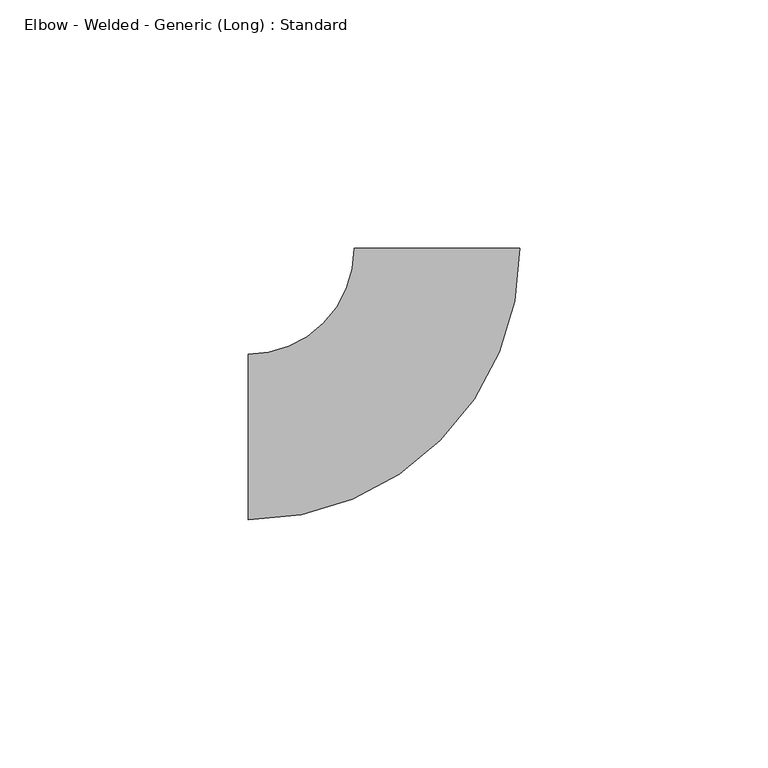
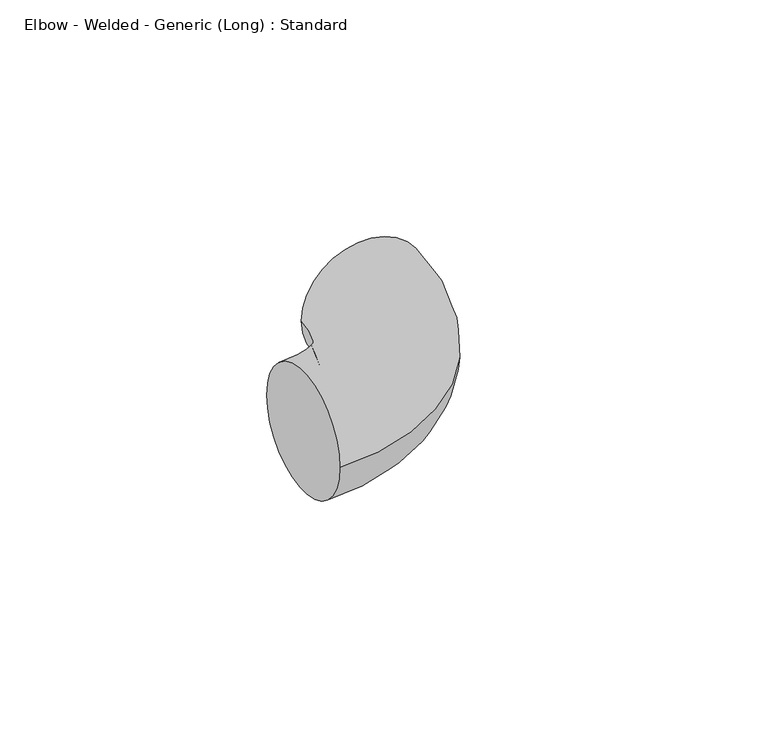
"""IFC4 building model written with IfcOpenShell, lengths in millimetres: pipe fitting geometry, Elbow - Welded - Generic (Long) : Standard."""

import ifcopenshell
import ifcopenshell.guid

model = None  # the IFC model being written
_history = None  # IfcOwnerHistory: only IFC2X3 demands one
_inside = {}  # id of a spatial element -> (the spatial element, [elements in it])
_under = {}  # id of a project, library or spatial element -> (it, [spatial elements below it])
_declared = {}  # id of a project -> (the project, [libraries it declares])
_typed = {}  # id of a type object -> (the type object, [elements of that type])
_made_of = {}  # id of a material, layer set ... -> (it, [elements and type objects made of it])


def new_model(schema):
    """Start an empty IFC model of exactly this schema.

    Asked for "IFC4X3", IfcOpenShell would pick the latest addendum, in which some entities
    have other attributes; the version numbers below select the first issue.
    IFC2X3 requires an IfcOwnerHistory on every rooted entity: one is made here for all.
    """
    global model, _history
    if schema == "IFC4X3":
        model = ifcopenshell.file(schema_version=(4, 3, 0, 0))
    else:
        model = ifcopenshell.file(schema=schema)
    _inside.clear()
    _under.clear()
    _declared.clear()
    _typed.clear()
    _made_of.clear()
    _history = None
    if model.schema == "IFC2X3":
        org = make("IfcOrganization", Name="unknown")
        user = make(
            "IfcPersonAndOrganization",
            ThePerson=make("IfcPerson", FamilyName="unknown"),
            TheOrganization=org,
        )
        app = make(
            "IfcApplication",
            ApplicationDeveloper=org,
            Version="unknown",
            ApplicationFullName="unknown",
            ApplicationIdentifier="unknown",
        )
        _history = make(
            "IfcOwnerHistory",
            OwningUser=user,
            OwningApplication=app,
            ChangeAction="ADDED",
            CreationDate=0,
        )
    return model


def make(cls, **values):
    """One entity of the class cls with the attributes given. An attribute that is None is left unset."""
    return model.create_entity(
        cls, **{name: value for name, value in values.items() if value is not None}
    )


def rooted(cls, **values):
    """An entity with a GlobalId (a new one), such as an element, a storey or a relation."""
    return make(cls, GlobalId=ifcopenshell.guid.new(), OwnerHistory=_history, **values)


def si_unit(unit_type, name, prefix=None):
    """IfcSIUnit, for example si_unit("LENGTHUNIT", "METRE", prefix="MILLI")."""
    return make("IfcSIUnit", UnitType=unit_type, Prefix=prefix, Name=name)


def assignment(units):
    """IfcUnitAssignment: the units of a project."""
    return None if units is None else make("IfcUnitAssignment", Units=units)


def point(xyz):
    """IfcCartesianPoint."""
    return None if xyz is None else make("IfcCartesianPoint", Coordinates=xyz)


def direction(xyz):
    """IfcDirection."""
    return None if xyz is None else make("IfcDirection", DirectionRatios=xyz)


def frame(location, z_axis=None, x_axis=None):
    """IfcAxis2Placement3D, a coordinate frame: its origin and axes. An axis left out is left unset."""
    return make(
        "IfcAxis2Placement3D",
        Location=point(location),
        Axis=direction(z_axis),
        RefDirection=direction(x_axis),
    )


def origin():
    """The frame at (0, 0, 0) with its axes left unset."""
    return frame((0.0, 0.0, 0.0))


def place(relative_to, where):
    """IfcLocalPlacement: puts the frame where relative to a parent placement (None: the world)."""
    return make(
        "IfcLocalPlacement", PlacementRelTo=relative_to, RelativePlacement=where
    )


def context(
    kind, dimensions, precision=None, world=None, true_north=None, identifier=None
):
    """IfcGeometricRepresentationContext, for example the 3D "Model" context."""
    return make(
        "IfcGeometricRepresentationContext",
        ContextIdentifier=identifier,
        ContextType=kind,
        CoordinateSpaceDimension=dimensions,
        Precision=precision,
        WorldCoordinateSystem=world,
        TrueNorth=true_north,
    )


def project(units=None, contexts=None):
    """IfcProject with its units and contexts."""
    return rooted(
        "IfcProject",
        Name="project",
        RepresentationContexts=contexts,
        UnitsInContext=assignment(units),
    )


def spatial(cls, under=None, at=None, **own):
    """A site, building, storey or space (cls), placed at a placement, below another one or the project."""
    s = rooted(cls, ObjectPlacement=at, **own)
    if under is not None:
        _under.setdefault(under.id(), (under, []))[1].append(s)
    return s


def circle_curve(where, radius):
    """IfcCircle in the frame where."""
    return make("IfcCircle", Position=where, Radius=radius)


def ellipse_curve(where, semi_axis1, semi_axis2):
    """IfcEllipse in the frame where."""
    return make(
        "IfcEllipse", Position=where, SemiAxis1=semi_axis1, SemiAxis2=semi_axis2
    )


def trimmed(basis, trim1, trim2, sense, master):
    """IfcTrimmedCurve: the piece of a basis curve between two trims."""
    return make(
        "IfcTrimmedCurve",
        BasisCurve=basis,
        Trim1=trim1,
        Trim2=trim2,
        SenseAgreement=sense,
        MasterRepresentation=master,
    )


def shape(context_of_items, identifier, shape_type, items):
    """IfcShapeRepresentation: the items that make up one representation, for example the "Body"."""
    return make(
        "IfcShapeRepresentation",
        ContextOfItems=context_of_items,
        RepresentationIdentifier=identifier,
        RepresentationType=shape_type,
        Items=items,
    )


def source(mapping_origin, context_of_items, identifier, shape_type, items):
    """IfcRepresentationMap: a shape defined once, which mapped items show again and again."""
    return make(
        "IfcRepresentationMap",
        MappingOrigin=mapping_origin,
        MappedRepresentation=shape(context_of_items, identifier, shape_type, items),
    )


def transform(
    local_origin,
    x_axis=None,
    y_axis=None,
    z_axis=None,
    scale=None,
    scale2=None,
    scale3=None,
    uniform=True,
):
    """IfcCartesianTransformationOperator3D, or its non-uniform kind. x_axis, y_axis, z_axis: its Axis1, 2, 3."""
    if uniform:
        return make(
            "IfcCartesianTransformationOperator3D",
            Axis1=direction(x_axis),
            Axis2=direction(y_axis),
            LocalOrigin=point(local_origin),
            Scale=scale,
            Axis3=direction(z_axis),
        )
    return make(
        "IfcCartesianTransformationOperator3DnonUniform",
        Axis1=direction(x_axis),
        Axis2=direction(y_axis),
        LocalOrigin=point(local_origin),
        Scale=scale,
        Axis3=direction(z_axis),
        Scale2=scale2,
        Scale3=scale3,
    )


def mapped(mapping_source, mapping_target):
    """IfcMappedItem: shows the shape of a source again, moved by a transform."""
    return make(
        "IfcMappedItem", MappingSource=mapping_source, MappingTarget=mapping_target
    )


def made_of(thing, what):
    """Note that an element or type object is made of a material, layer set ...; save() writes the relation."""
    if what is not None:
        _made_of.setdefault(what.id(), (what, []))[1].append(thing)
    return thing


def element(
    cls,
    number,
    at=None,
    inside=None,
    cuts=None,
    type_object=None,
    material=None,
    context=None,
    identifier="Body",
    shape_type=None,
    held_by="IfcProductDefinitionShape",
    body=None,
    shapes=None,
    **own,
):
    """One element of the class cls, such as IfcWall. Its Tag is "e" and its number.

    at: its placement. inside: the storey or other place that contains it. cuts: it is an
    opening in that element (IfcRelVoidsElement). A single representation is given by context,
    identifier, shape_type and body (its items); several are given by shapes. held_by: the class
    of the entity that holds the representations. save() writes the other relations.
    """
    e = rooted(cls, Tag="e%d" % number, ObjectPlacement=at, **own)
    if body is not None:
        shapes = [shape(context, identifier, shape_type, body)]
    if shapes is not None:
        e.Representation = make(held_by, Representations=shapes)
    if inside is not None:
        _inside.setdefault(inside.id(), (inside, []))[1].append(e)
    if cuts is not None:
        rooted(
            "IfcRelVoidsElement", RelatingBuildingElement=cuts, RelatedOpeningElement=e
        )
    if type_object is not None:
        _typed.setdefault(type_object.id(), (type_object, []))[1].append(e)
    return made_of(e, material)


def aggregate(whole, parts):
    """IfcRelAggregates: a whole, such as a stair, and the parts it consists of."""
    return rooted("IfcRelAggregates", RelatingObject=whole, RelatedObjects=parts)


def save(model, path):
    """Write the relations noted so far, then the file.

    IfcRelAggregates (storeys below a building ...), IfcRelContainedInSpatialStructure (elements
    in a storey), IfcRelDefinesByType, IfcRelAssociatesMaterial and IfcRelDeclares: one each for
    every whole, place, type object, material and project.
    """
    for whole, parts in _under.values():
        aggregate(whole, parts)
    for where, things in _inside.values():
        rooted(
            "IfcRelContainedInSpatialStructure",
            RelatedElements=things,
            RelatingStructure=where,
        )
    for kind, things in _typed.values():
        rooted("IfcRelDefinesByType", RelatedObjects=things, RelatingType=kind)
    for what, things in _made_of.values():
        rooted("IfcRelAssociatesMaterial", RelatedObjects=things, RelatingMaterial=what)
    for by, libraries in _declared.values():
        rooted("IfcRelDeclares", RelatingContext=by, RelatedDefinitions=libraries)
    model.write(path)


def plane_surface(at):
    """IfcPlane: the flat surface through the origin of the frame at, square to its z axis."""
    return make("IfcPlane", Position=at)


def revolved_surface(curve, axis_point, axis_direction):
    """IfcSurfaceOfRevolution: the curve turned about the line through axis_point along axis_direction."""
    return make(
        "IfcSurfaceOfRevolution",
        SweptCurve=make("IfcArbitraryOpenProfileDef", ProfileType="CURVE", Curve=curve),
        AxisPosition=make("IfcAxis1Placement", Location=point(axis_point), Axis=direction(axis_direction)),
    )


def advanced_brep(points, edges, surfaces, faces):
    """IfcAdvancedBrep: a solid bounded by faces that lie on surfaces and meet in shared edges.

    An edge is (start, end): straight between two places in points (the first is 0);
    or (start, end, curve); or (start, end, curve, False) where it runs against its curve.
    A face is (place in surfaces, loops), or (place, loops, False) where it looks against
    its surface's normal. A loop lists edges by number (the first is 1), with a minus sign
    where the edge is run from its end to its start. The first loop is the outer one.
    """
    corners = [point(p) for p in points]
    vertices = [make("IfcVertexPoint", VertexGeometry=c) for c in corners]
    made = []
    for start, end, *more in edges:
        made.append(
            make(
                "IfcEdgeCurve",
                EdgeStart=vertices[start],
                EdgeEnd=vertices[end],
                EdgeGeometry=more[0] if more else make("IfcPolyline", Points=[corners[start], corners[end]]),
                SameSense=more[1] if len(more) > 1 else True,
            )
        )
    hull = []
    for where, loops, *sense in faces:
        bounds = []
        for j, loop in enumerate(loops):
            ring = [make("IfcOrientedEdge", EdgeElement=made[abs(k) - 1], Orientation=k > 0) for k in loop]
            bounds.append(
                make(
                    "IfcFaceOuterBound" if j == 0 else "IfcFaceBound",
                    Bound=make("IfcEdgeLoop", EdgeList=ring),
                    Orientation=True,
                )
            )
        hull.append(make("IfcAdvancedFace", Bounds=bounds, FaceSurface=surfaces[where], SameSense=sense[0] if sense else True))
    return make("IfcAdvancedBrep", Outer=make("IfcClosedShell", CfsFaces=hull))


def elbow_welded_generic_long_standard_8406ad97(model_context):
    return source(origin(), model_context, "Body", "AdvancedBrep", [
        advanced_brep(
        [(-38.1, -16.66875, 0.0), (-38.1, 16.66875, 0.0), (16.6796296, 38.0952383, 0.0), (-16.6578691, 38.1047586, 0.0)],
        [
            (0, 1, circle_curve(frame((-38.1, 0.0, 0.0), z_axis=(-1.0, 0.0, 0.0), x_axis=(0.0, 1.0, 0.0)), 16.66875)),
            (1, 0, circle_curve(frame((-38.1, 0.0, 0.0), z_axis=(-1.0, 0.0, 0.0), x_axis=(0.0, 1.0, 0.0)), 16.66875)),
            (2, 3, circle_curve(frame((0.0108803, 38.0999984, 0.0), z_axis=(0.0002855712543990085, 0.9999999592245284, 0.0), x_axis=(-0.9999999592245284, 0.0002855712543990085, 0.0)), 16.66875)),
            (3, 2, circle_curve(frame((0.0108803, 38.0999984, 0.0), z_axis=(0.0002855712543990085, 0.9999999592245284, 0.0), x_axis=(-0.9999999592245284, 0.0002855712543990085, 0.0)), 16.66875)),
            (3, 1, circle_curve(frame((-38.1, 38.1108818, 0.0), z_axis=(0.0, 0.0, -1.0), x_axis=(0.0, -1.0, 0.0)), 21.4421318)),
            (0, 2, circle_curve(frame((-38.1, 38.1108818, 0.0), z_axis=(0.0, 0.0, 1.0), x_axis=(0.0, -1.0, 0.0)), 54.7796318)),
        ],
        [
            plane_surface(frame((-38.1, 0.0, 0.0), z_axis=(-1.0, 0.0, 0.0), x_axis=(0.0, 0.0, 1.0))),
            plane_surface(frame((0.0108803, 38.0999984, 0.0), z_axis=(0.0002855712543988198, 0.9999999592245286, 0.0), x_axis=(0.0, 0.0, 1.0))),
            revolved_surface(trimmed(ellipse_curve(frame((-38.1, 0.0, 0.0), z_axis=(-1.0, 0.0, 0.0), x_axis=(0.0, 1.0, 0.0)), 16.66875, 16.66875), [point((-38.1, -16.66875, 0.0))], [point((-38.1, 16.66875, 0.0))], True, "CARTESIAN"), (-38.1, 38.1108818, 0.0), (0.0, 0.0, 1.0)),
            revolved_surface(trimmed(ellipse_curve(frame((-38.1, 0.0, 0.0), z_axis=(-1.0, 0.0, 0.0), x_axis=(0.0, 1.0, 0.0)), 16.66875, 16.66875), [point((-38.1, 16.66875, 0.0))], [point((-38.1, -16.66875, 0.0))], True, "CARTESIAN"), (-38.1, 38.1108818, 0.0), (0.0, 0.0, 1.0)),
        ],
        [
            (0, [[1, 2]]),
            (1, [[3, 4]]),
            (2, [[5, -1, 6, -4]]),
            (3, [[-6, -2, -5, -3]]),
        ],
    ),
    ])


if __name__ == "__main__":
    model = new_model("IFC4")
    model_context = context("Model", 3, world=origin())
    ifc_project = project(units=[si_unit("LENGTHUNIT", "METRE", prefix="MILLI")], contexts=[model_context])
    site = spatial("IfcSite", under=ifc_project)
    building = spatial("IfcBuilding", under=site)
    placement = place(None, origin())
    elbow_welded_generic_long_standard_shape = elbow_welded_generic_long_standard_8406ad97(model_context)
    element("IfcPipeFitting", 1, ObjectType="Elbow - Welded - Generic (Long) : Standard", at=placement, inside=building, context=model_context, shape_type="MappedRepresentation", body=[
        mapped(elbow_welded_generic_long_standard_shape, transform((0.0, 0.0, 0.0), x_axis=(1.0, 0.0, 0.0), y_axis=(0.0, 1.0, 0.0), z_axis=(0.0, 0.0, 1.0))),
    ])
    save(model, "model.ifc")
